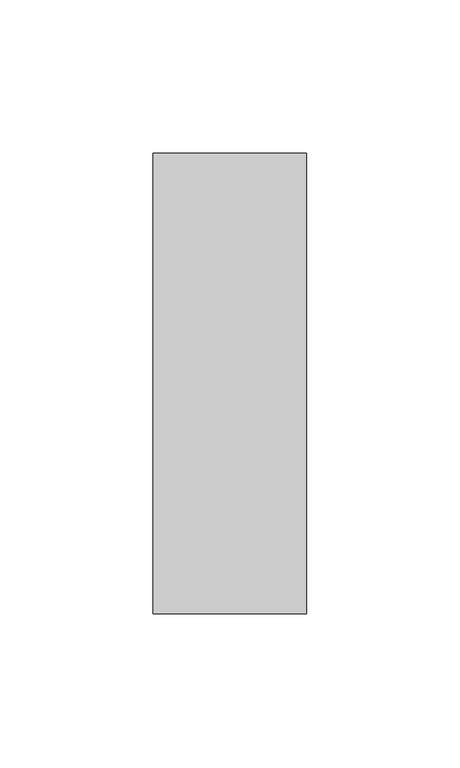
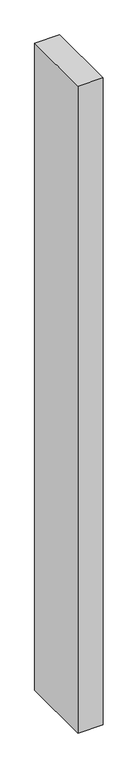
"""IFC4 building model written with IfcOpenShell, lengths in millimetres: member geometry, Прямоугольный импост : 50 x 150 мм."""

from ifc_helpers import new_model, si_unit, frame, origin, place, context, project, spatial, polyline, outline, extrude, source, transform, mapped, element, save


def member_6cb0b2d2(model_context):
    return source(origin(), model_context, "Body", "SweptSolid", [
        extrude(outline(polyline([(25.0, 75.0), (25.0, -75.0), (-25.0, -75.0), (-25.0, 75.0), (25.0, 75.0)])), frame((0.0, 0.0, -1365.5147785), z_axis=(0.0, 0.0, 1.0), x_axis=(1.0, 0.0, 0.0)), (0.0, 0.0, 1.0), 1365.5147785),
    ])


if __name__ == "__main__":
    model = new_model("IFC4")
    model_context = context("Model", 3, world=origin())
    ifc_project = project(units=[si_unit("LENGTHUNIT", "METRE", prefix="MILLI")], contexts=[model_context])
    site = spatial("IfcSite", under=ifc_project)
    building = spatial("IfcBuilding", under=site)
    placement = place(None, origin())
    member_shape = member_6cb0b2d2(model_context)
    element("IfcMember", 1, ObjectType="Прямоугольный импост : 50 x 150 мм", at=placement, inside=building, context=model_context, shape_type="MappedRepresentation", body=[
        mapped(member_shape, transform((0.0, 0.0, 0.0), x_axis=(1.0, 0.0, 0.0), y_axis=(0.0, 1.0, 0.0), z_axis=(0.0, 0.0, 1.0))),
    ])
    save(model, "model.ifc")
